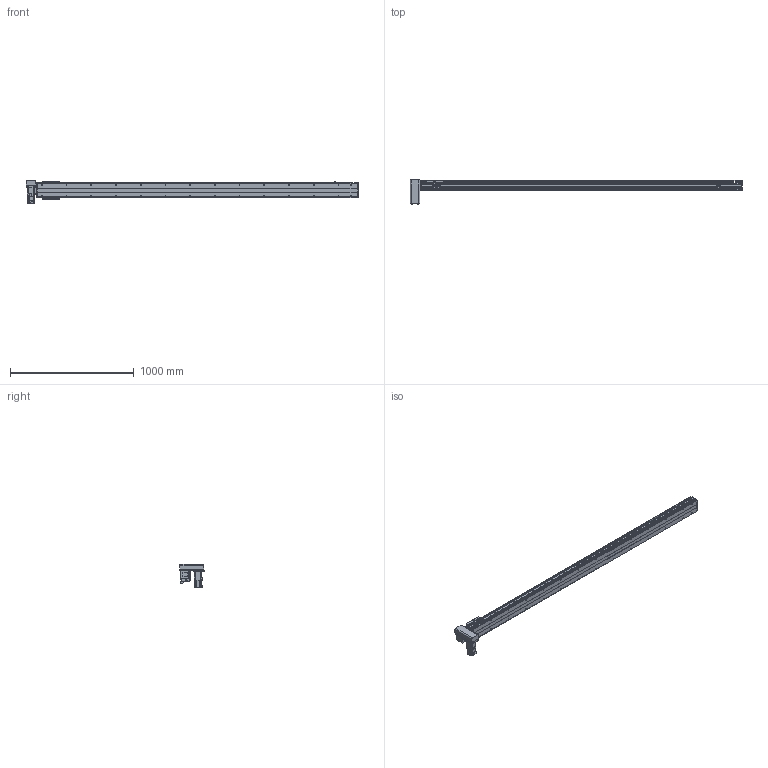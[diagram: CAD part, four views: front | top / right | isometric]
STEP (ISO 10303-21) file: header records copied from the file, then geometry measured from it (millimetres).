
FILE_DESCRIPTION( ( 'STEP AP214' ), '1' );
FILE_NAME( 'x:/temp/worker_27/temp/exporttempdir_6708_204_jwr5x/format_0/PBS120-P40-S2300-RD-T40-C1-N(0).stp', '2022-06-06T00:43:58', ( 'License CC BY-ND 4.0' ), ( 'CADENAS' ), ' ', 'PARTsolutions', ' ' );
FILE_SCHEMA( ( 'AUTOMOTIVE_DESIGN { 1 0 10303 214 1 1 1 1 }' ) );
Length unit declared in the file: millimetre
Products named in the file (7): PBS120-P40-S2300-RD-T40-C1-N(0); _PBS120-S2300()_body; _PBS120T-RD_motors; _T40-p1; _PBS120_sliser; _PBS120_plant; _PBS120_sensor
Assembly tree (8 placements, depth 2):
  PBS120-P40-S2300-RD-T40-C1-N(0)
    _PBS120-S2300()_body
    _PBS120T-RD_motors
    _T40-p1
    _PBS120_sliser
    _PBS120_plant
    _PBS120_sensor  x3
Bounding box: 2686 x 196 x 189.7 mm (x, y, z)
Volume: 10192627.5 mm3; surface area: 2097433 mm2
Topology: 8 solids, 8 shells, 864 faces, 2216 edges, 1423 vertices
Faces by surface type: plane 561, cylinder 241, cone 60, torus 2
Full cylindrical faces by diameter (mm): 2.459 x6, 3.242 x4, 4 x2, 4.134 x4, 4.5 x10, 4.917 x32, 5.5 x11, 6 x2, 6.6 x1, 7 x2, 8.5 x4, 9 x4, 12 x1, 14 x1, 30 x2, 40 x1, 50 x2
Entity records: 28332 total; most frequent: DIRECTION 3884, CARTESIAN_POINT 3785, ORIENTED_EDGE 3574, EDGE_CURVE 1787, AXIS2_PLACEMENT_3D 1328, VERTEX_POINT 1229, LINE 1228, VECTOR 1228
